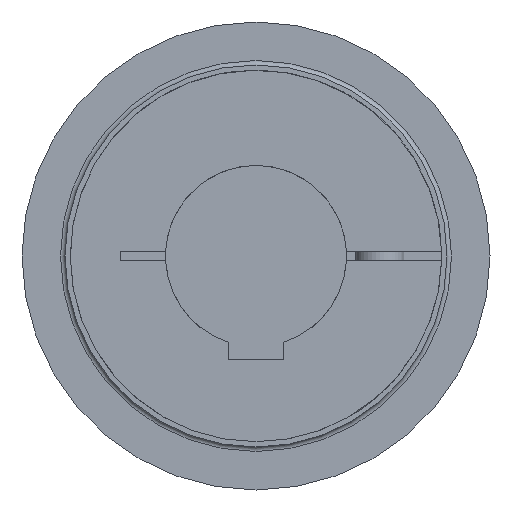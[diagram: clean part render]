
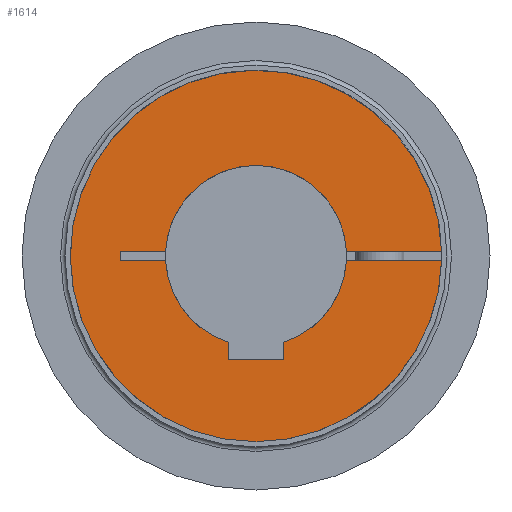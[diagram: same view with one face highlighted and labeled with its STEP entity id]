
A CAD part, left-side view. The second image highlights one B-rep face of the part: STEP entity #1614.
In plain terms, the highlighted planar face has unit normal (-1, 0, 0).
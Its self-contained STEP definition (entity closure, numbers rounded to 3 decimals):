
#24=PLANE('',#1855);
#149=LINE('',#2946,#252);
#152=LINE('',#2952,#255);
#153=LINE('',#2954,#256);
#164=LINE('',#2975,#267);
#165=LINE('',#2977,#268);
#166=LINE('',#2979,#269);
#167=LINE('',#2981,#270);
#168=LINE('',#2982,#271);
#252=VECTOR('',#2265,1.);
#255=VECTOR('',#2270,1.);
#256=VECTOR('',#2273,1.);
#267=VECTOR('',#2296,1.);
#268=VECTOR('',#2299,1.);
#269=VECTOR('',#2300,1.);
#270=VECTOR('',#2301,1.);
#271=VECTOR('',#2302,1.);
#387=FACE_OUTER_BOUND('',#490,.T.);
#490=EDGE_LOOP('',(#1332,#1333,#1334,#1335,#1336,#1337,#1338,#1339,#1340,
#1341,#1342,#1343,#1344));
#652=CIRCLE('',#1790,61.5);
#655=CIRCLE('',#1793,61.5);
#686=CIRCLE('',#1839,30.);
#689=CIRCLE('',#1843,30.);
#691=CIRCLE('',#1845,30.);
#761=VERTEX_POINT('',#2634);
#762=VERTEX_POINT('',#2636);
#767=VERTEX_POINT('',#2646);
#808=VERTEX_POINT('',#2916);
#809=VERTEX_POINT('',#2917);
#814=VERTEX_POINT('',#2928);
#815=VERTEX_POINT('',#2930);
#818=VERTEX_POINT('',#2936);
#819=VERTEX_POINT('',#2938);
#821=VERTEX_POINT('',#2944);
#823=VERTEX_POINT('',#2950);
#828=VERTEX_POINT('',#2978);
#829=VERTEX_POINT('',#2980);
#946=EDGE_CURVE('',#761,#762,#652,.T.);
#952=EDGE_CURVE('',#767,#761,#655,.T.);
#1005=EDGE_CURVE('',#808,#809,#686,.T.);
#1011=EDGE_CURVE('',#815,#814,#689,.T.);
#1015=EDGE_CURVE('',#819,#818,#691,.T.);
#1019=EDGE_CURVE('',#818,#821,#149,.T.);
#1022=EDGE_CURVE('',#821,#823,#152,.T.);
#1023=EDGE_CURVE('',#823,#815,#153,.T.);
#1034=EDGE_CURVE('',#809,#762,#164,.T.);
#1035=EDGE_CURVE('',#767,#819,#165,.T.);
#1036=EDGE_CURVE('',#814,#828,#166,.T.);
#1037=EDGE_CURVE('',#828,#829,#167,.T.);
#1038=EDGE_CURVE('',#829,#808,#168,.T.);
#1332=ORIENTED_EDGE('',*,*,#1005,.T.);
#1333=ORIENTED_EDGE('',*,*,#1034,.T.);
#1334=ORIENTED_EDGE('',*,*,#946,.F.);
#1335=ORIENTED_EDGE('',*,*,#952,.F.);
#1336=ORIENTED_EDGE('',*,*,#1035,.T.);
#1337=ORIENTED_EDGE('',*,*,#1015,.T.);
#1338=ORIENTED_EDGE('',*,*,#1019,.T.);
#1339=ORIENTED_EDGE('',*,*,#1022,.T.);
#1340=ORIENTED_EDGE('',*,*,#1023,.T.);
#1341=ORIENTED_EDGE('',*,*,#1011,.T.);
#1342=ORIENTED_EDGE('',*,*,#1036,.T.);
#1343=ORIENTED_EDGE('',*,*,#1037,.T.);
#1344=ORIENTED_EDGE('',*,*,#1038,.T.);
#1614=ADVANCED_FACE('',(#387),#24,.T.);
#1790=AXIS2_PLACEMENT_3D('',#2637,#2124,#2125);
#1793=AXIS2_PLACEMENT_3D('',#2648,#2133,#2134);
#1839=AXIS2_PLACEMENT_3D('',#2918,#2241,#2242);
#1843=AXIS2_PLACEMENT_3D('',#2931,#2252,#2253);
#1845=AXIS2_PLACEMENT_3D('',#2939,#2258,#2259);
#1855=AXIS2_PLACEMENT_3D('',#2976,#2297,#2298);
#2124=DIRECTION('center_axis',(1.,0.,0.));
#2125=DIRECTION('ref_axis',(0.,0.,1.));
#2133=DIRECTION('center_axis',(1.,0.,0.));
#2134=DIRECTION('ref_axis',(0.,0.,1.));
#2241=DIRECTION('center_axis',(1.,0.,0.));
#2242=DIRECTION('ref_axis',(0.,0.,-1.));
#2252=DIRECTION('center_axis',(1.,0.,0.));
#2253=DIRECTION('ref_axis',(0.,0.,-1.));
#2258=DIRECTION('center_axis',(1.,0.,0.));
#2259=DIRECTION('ref_axis',(0.,0.,-1.));
#2265=DIRECTION('',(0.,0.,-1.));
#2270=DIRECTION('',(0.,1.,0.));
#2273=DIRECTION('',(0.,0.,1.));
#2296=DIRECTION('',(0.,-1.,0.));
#2297=DIRECTION('center_axis',(-1.,0.,0.));
#2298=DIRECTION('ref_axis',(0.,0.,-1.));
#2299=DIRECTION('',(0.,1.,0.));
#2300=DIRECTION('',(0.,1.,0.));
#2301=DIRECTION('',(0.,0.,1.));
#2302=DIRECTION('',(0.,-1.,0.));
#2634=CARTESIAN_POINT('',(0.,0.,-61.5));
#2636=CARTESIAN_POINT('',(0.,-61.482,1.5));
#2637=CARTESIAN_POINT('Origin',(0.,0.,0.));
#2646=CARTESIAN_POINT('',(0.,-61.482,-1.5));
#2648=CARTESIAN_POINT('Origin',(0.,0.,0.));
#2916=CARTESIAN_POINT('',(0.,29.962,1.5));
#2917=CARTESIAN_POINT('',(0.,-29.962,1.5));
#2918=CARTESIAN_POINT('Origin',(0.,0.,0.));
#2928=CARTESIAN_POINT('',(0.,29.962,-1.5));
#2930=CARTESIAN_POINT('',(0.,9.,-28.618));
#2931=CARTESIAN_POINT('Origin',(0.,0.,0.));
#2936=CARTESIAN_POINT('',(0.,-9.,-28.618));
#2938=CARTESIAN_POINT('',(0.,-29.962,-1.5));
#2939=CARTESIAN_POINT('Origin',(0.,0.,0.));
#2944=CARTESIAN_POINT('',(0.,-9.,-34.4));
#2946=CARTESIAN_POINT('',(0.,-9.,6.775));
#2950=CARTESIAN_POINT('',(0.,9.,-34.4));
#2952=CARTESIAN_POINT('',(0.,0.,-34.4));
#2954=CARTESIAN_POINT('',(0.,9.,6.775));
#2975=CARTESIAN_POINT('',(0.,-4.375,1.5));
#2976=CARTESIAN_POINT('Origin',(0.,0.,30.75));
#2977=CARTESIAN_POINT('',(0.,-4.375,-1.5));
#2978=CARTESIAN_POINT('',(0.,45.,-1.5));
#2979=CARTESIAN_POINT('',(0.,-4.375,-1.5));
#2980=CARTESIAN_POINT('',(0.,45.,1.5));
#2981=CARTESIAN_POINT('',(0.,45.,15.375));
#2982=CARTESIAN_POINT('',(0.,-4.375,1.5));
